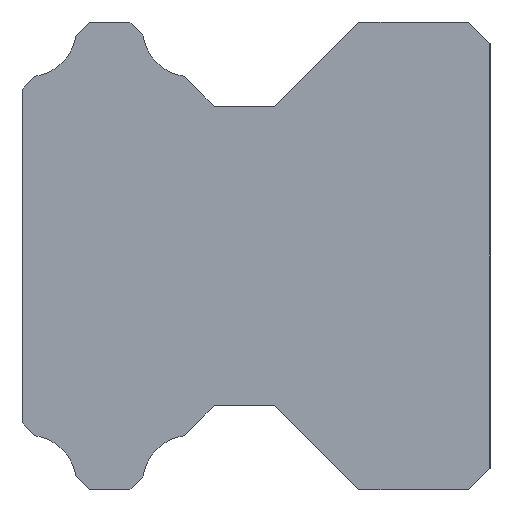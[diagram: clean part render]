
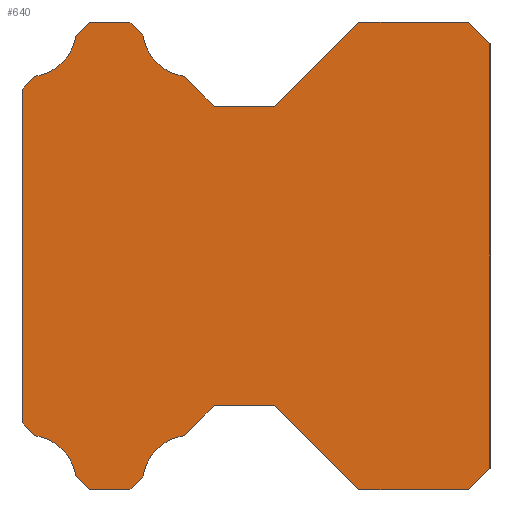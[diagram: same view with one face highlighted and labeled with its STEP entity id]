
A CAD part, left-side view. The second image highlights one B-rep face of the part: STEP entity #640.
In plain terms, the highlighted planar face has unit normal (-1, 0, 0).
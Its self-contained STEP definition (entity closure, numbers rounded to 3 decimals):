
#20=CIRCLE('',#667,1.56);
#25=CIRCLE('',#684,1.56);
#27=CIRCLE('',#690,1.56);
#32=CIRCLE('',#699,1.56);
#176=ORIENTED_EDGE('',*,*,#218,.F.);
#177=ORIENTED_EDGE('',*,*,#294,.T.);
#178=ORIENTED_EDGE('',*,*,#291,.F.);
#179=ORIENTED_EDGE('',*,*,#288,.F.);
#180=ORIENTED_EDGE('',*,*,#282,.F.);
#181=ORIENTED_EDGE('',*,*,#279,.T.);
#182=ORIENTED_EDGE('',*,*,#276,.F.);
#183=ORIENTED_EDGE('',*,*,#273,.F.);
#184=ORIENTED_EDGE('',*,*,#270,.F.);
#185=ORIENTED_EDGE('',*,*,#267,.T.);
#186=ORIENTED_EDGE('',*,*,#264,.F.);
#187=ORIENTED_EDGE('',*,*,#261,.F.);
#188=ORIENTED_EDGE('',*,*,#258,.F.);
#189=ORIENTED_EDGE('',*,*,#255,.F.);
#190=ORIENTED_EDGE('',*,*,#252,.F.);
#191=ORIENTED_EDGE('',*,*,#249,.F.);
#192=ORIENTED_EDGE('',*,*,#243,.F.);
#193=ORIENTED_EDGE('',*,*,#240,.F.);
#194=ORIENTED_EDGE('',*,*,#237,.F.);
#195=ORIENTED_EDGE('',*,*,#234,.F.);
#196=ORIENTED_EDGE('',*,*,#231,.F.);
#197=ORIENTED_EDGE('',*,*,#228,.T.);
#198=ORIENTED_EDGE('',*,*,#225,.F.);
#199=ORIENTED_EDGE('',*,*,#222,.F.);
#218=EDGE_CURVE('',#302,#303,#362,.T.);
#222=EDGE_CURVE('',#303,#306,#366,.T.);
#225=EDGE_CURVE('',#306,#308,#369,.T.);
#228=EDGE_CURVE('',#310,#308,#20,.T.);
#231=EDGE_CURVE('',#310,#312,#373,.T.);
#234=EDGE_CURVE('',#312,#314,#376,.T.);
#237=EDGE_CURVE('',#314,#316,#379,.T.);
#240=EDGE_CURVE('',#316,#318,#382,.T.);
#243=EDGE_CURVE('',#318,#320,#385,.T.);
#249=EDGE_CURVE('',#320,#325,#388,.T.);
#252=EDGE_CURVE('',#325,#327,#391,.T.);
#255=EDGE_CURVE('',#327,#329,#394,.T.);
#258=EDGE_CURVE('',#329,#331,#397,.T.);
#261=EDGE_CURVE('',#331,#333,#400,.T.);
#264=EDGE_CURVE('',#333,#335,#403,.T.);
#267=EDGE_CURVE('',#337,#335,#25,.T.);
#270=EDGE_CURVE('',#337,#339,#407,.T.);
#273=EDGE_CURVE('',#339,#341,#410,.T.);
#276=EDGE_CURVE('',#341,#343,#413,.T.);
#279=EDGE_CURVE('',#345,#343,#27,.T.);
#282=EDGE_CURVE('',#345,#347,#417,.T.);
#288=EDGE_CURVE('',#347,#352,#420,.T.);
#291=EDGE_CURVE('',#352,#354,#423,.T.);
#294=EDGE_CURVE('',#302,#354,#32,.T.);
#302=VERTEX_POINT('',#897);
#303=VERTEX_POINT('',#898);
#306=VERTEX_POINT('',#906);
#308=VERTEX_POINT('',#912);
#310=VERTEX_POINT('',#918);
#312=VERTEX_POINT('',#924);
#314=VERTEX_POINT('',#930);
#316=VERTEX_POINT('',#936);
#318=VERTEX_POINT('',#942);
#320=VERTEX_POINT('',#948);
#325=VERTEX_POINT('',#960);
#327=VERTEX_POINT('',#966);
#329=VERTEX_POINT('',#972);
#331=VERTEX_POINT('',#978);
#333=VERTEX_POINT('',#984);
#335=VERTEX_POINT('',#990);
#337=VERTEX_POINT('',#996);
#339=VERTEX_POINT('',#1002);
#341=VERTEX_POINT('',#1008);
#343=VERTEX_POINT('',#1014);
#345=VERTEX_POINT('',#1020);
#347=VERTEX_POINT('',#1026);
#352=VERTEX_POINT('',#1038);
#354=VERTEX_POINT('',#1044);
#362=LINE('',#896,#426);
#366=LINE('',#905,#430);
#369=LINE('',#911,#433);
#373=LINE('',#923,#437);
#376=LINE('',#929,#440);
#379=LINE('',#935,#443);
#382=LINE('',#941,#446);
#385=LINE('',#947,#449);
#388=LINE('',#959,#452);
#391=LINE('',#965,#455);
#394=LINE('',#971,#458);
#397=LINE('',#977,#461);
#400=LINE('',#983,#464);
#403=LINE('',#989,#467);
#407=LINE('',#1001,#471);
#410=LINE('',#1007,#474);
#413=LINE('',#1013,#477);
#417=LINE('',#1025,#481);
#420=LINE('',#1037,#484);
#423=LINE('',#1043,#487);
#426=VECTOR('',#722,1000.);
#430=VECTOR('',#728,1000.);
#433=VECTOR('',#733,1000.);
#437=VECTOR('',#745,1000.);
#440=VECTOR('',#750,1000.);
#443=VECTOR('',#755,1000.);
#446=VECTOR('',#760,1000.);
#449=VECTOR('',#765,1000.);
#452=VECTOR('',#776,1000.);
#455=VECTOR('',#781,1000.);
#458=VECTOR('',#786,1000.);
#461=VECTOR('',#791,1000.);
#464=VECTOR('',#796,1000.);
#467=VECTOR('',#801,1000.);
#471=VECTOR('',#813,1000.);
#474=VECTOR('',#818,1000.);
#477=VECTOR('',#823,1000.);
#481=VECTOR('',#835,1000.);
#484=VECTOR('',#846,1000.);
#487=VECTOR('',#851,1000.);
#521=EDGE_LOOP('',(#176,#177,#178,#179,#180,#181,#182,#183,#184,#185,#186,
#187,#188,#189,#190,#191,#192,#193,#194,#195,#196,#197,#198,#199));
#571=FACE_BOUND('',#521,.T.);
#611=PLANE('',#702);
#640=ADVANCED_FACE('',(#571),#611,.F.);
#667=AXIS2_PLACEMENT_3D('',#917,#738,#739);
#684=AXIS2_PLACEMENT_3D('',#995,#806,#807);
#690=AXIS2_PLACEMENT_3D('',#1019,#828,#829);
#699=AXIS2_PLACEMENT_3D('',#1049,#856,#857);
#702=AXIS2_PLACEMENT_3D('',#1052,#862,#863);
#722=DIRECTION('',(0.,-0.707,0.707));
#728=DIRECTION('',(0.,-1.,0.));
#733=DIRECTION('',(0.,-0.707,-0.707));
#738=DIRECTION('',(1.,0.,0.));
#739=DIRECTION('',(0.,0.,-1.));
#745=DIRECTION('',(0.,-0.707,-0.707));
#750=DIRECTION('',(0.,-1.,0.));
#755=DIRECTION('',(0.,-0.707,0.707));
#760=DIRECTION('',(0.,-1.,0.));
#765=DIRECTION('',(0.,-0.707,-0.707));
#776=DIRECTION('',(0.,0.,-1.));
#781=DIRECTION('',(0.,0.707,-0.707));
#786=DIRECTION('',(0.,1.,0.));
#791=DIRECTION('',(0.,0.707,0.707));
#796=DIRECTION('',(0.,1.,0.));
#801=DIRECTION('',(0.,0.707,-0.707));
#806=DIRECTION('',(1.,0.,0.));
#807=DIRECTION('',(0.,0.,-1.));
#813=DIRECTION('',(0.,0.707,-0.707));
#818=DIRECTION('',(0.,1.,0.));
#823=DIRECTION('',(0.,0.707,0.707));
#828=DIRECTION('',(1.,0.,0.));
#829=DIRECTION('',(0.,0.,-1.));
#835=DIRECTION('',(0.,0.707,0.707));
#846=DIRECTION('',(0.,0.,1.));
#851=DIRECTION('',(0.,-0.707,0.707));
#856=DIRECTION('',(1.,0.,0.));
#857=DIRECTION('',(0.,0.,-1.));
#862=DIRECTION('',(1.,0.,0.));
#863=DIRECTION('',(0.,0.,-1.));
#896=CARTESIAN_POINT('',(-20.,13.268,7.082));
#897=CARTESIAN_POINT('',(-20.,13.268,7.082));
#898=CARTESIAN_POINT('',(-20.,12.85,7.5));
#905=CARTESIAN_POINT('',(-20.,12.85,7.5));
#906=CARTESIAN_POINT('',(-20.,11.54,7.5));
#911=CARTESIAN_POINT('',(-20.,11.54,7.5));
#912=CARTESIAN_POINT('',(-20.,11.125,7.085));
#917=CARTESIAN_POINT('',(-20.,9.58,7.3));
#918=CARTESIAN_POINT('',(-20.,9.795,5.755));
#923=CARTESIAN_POINT('',(-20.,9.795,5.755));
#924=CARTESIAN_POINT('',(-20.,8.84,4.8));
#929=CARTESIAN_POINT('',(-20.,8.84,4.8));
#930=CARTESIAN_POINT('',(-20.,6.9,4.8));
#935=CARTESIAN_POINT('',(-20.,6.9,4.8));
#936=CARTESIAN_POINT('',(-20.,4.2,7.5));
#941=CARTESIAN_POINT('',(-20.,4.2,7.5));
#942=CARTESIAN_POINT('',(-20.,0.7,7.5));
#947=CARTESIAN_POINT('',(-20.,0.7,7.5));
#948=CARTESIAN_POINT('',(-20.,0.,6.8));
#959=CARTESIAN_POINT('',(-20.,0.,6.8));
#960=CARTESIAN_POINT('',(-20.,0.,-6.8));
#965=CARTESIAN_POINT('',(-20.,0.,-6.8));
#966=CARTESIAN_POINT('',(-20.,0.7,-7.5));
#971=CARTESIAN_POINT('',(-20.,0.7,-7.5));
#972=CARTESIAN_POINT('',(-20.,4.2,-7.5));
#977=CARTESIAN_POINT('',(-20.,4.2,-7.5));
#978=CARTESIAN_POINT('',(-20.,6.9,-4.8));
#983=CARTESIAN_POINT('',(-20.,6.9,-4.8));
#984=CARTESIAN_POINT('',(-20.,8.84,-4.8));
#989=CARTESIAN_POINT('',(-20.,8.84,-4.8));
#990=CARTESIAN_POINT('',(-20.,9.795,-5.755));
#995=CARTESIAN_POINT('',(-20.,9.58,-7.3));
#996=CARTESIAN_POINT('',(-20.,11.125,-7.085));
#1001=CARTESIAN_POINT('',(-20.,11.125,-7.085));
#1002=CARTESIAN_POINT('',(-20.,11.54,-7.5));
#1007=CARTESIAN_POINT('',(-20.,11.54,-7.5));
#1008=CARTESIAN_POINT('',(-20.,12.85,-7.5));
#1013=CARTESIAN_POINT('',(-20.,12.85,-7.5));
#1014=CARTESIAN_POINT('',(-20.,13.268,-7.082));
#1019=CARTESIAN_POINT('',(-20.,14.813,-7.3));
#1020=CARTESIAN_POINT('',(-20.,14.595,-5.755));
#1025=CARTESIAN_POINT('',(-20.,14.595,-5.755));
#1026=CARTESIAN_POINT('',(-20.,15.,-5.35));
#1037=CARTESIAN_POINT('',(-20.,15.,-5.35));
#1038=CARTESIAN_POINT('',(-20.,15.,5.35));
#1043=CARTESIAN_POINT('',(-20.,15.,5.35));
#1044=CARTESIAN_POINT('',(-20.,14.595,5.755));
#1049=CARTESIAN_POINT('',(-20.,14.813,7.3));
#1052=CARTESIAN_POINT('',(-20.,9.58,7.3));
